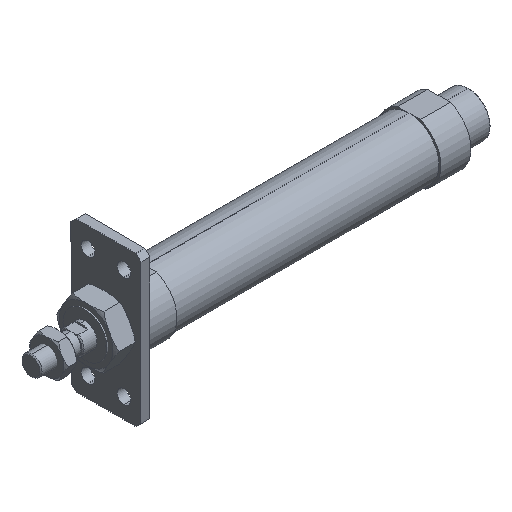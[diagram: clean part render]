
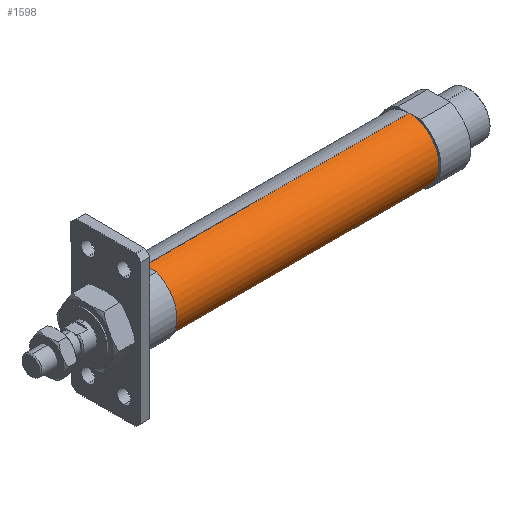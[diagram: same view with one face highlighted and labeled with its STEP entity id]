
A CAD part, isometric view. The second image highlights one B-rep face of the part: STEP entity #1598.
In plain terms, the highlighted cylindrical face has radius 15 mm (diameter 30 mm), a partial arc.
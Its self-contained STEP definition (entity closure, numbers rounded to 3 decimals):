
#240 = CARTESIAN_POINT ( 'NONE',  ( 189., 0., 0. ) ) ;
#297 = EDGE_CURVE ( 'NONE', #2950, #4090, #3286, .T. ) ;
#351 = EDGE_CURVE ( 'NONE', #3506, #2950, #3342, .T. ) ;
#627 = CARTESIAN_POINT ( 'NONE',  ( 189., 0., 15. ) ) ;
#702 = DIRECTION ( 'NONE',  ( -1., 0., 0. ) ) ;
#778 = ORIENTED_EDGE ( 'NONE', *, *, #2754, .T. ) ;
#1156 = DIRECTION ( 'NONE',  ( -1., 0., 0. ) ) ;
#1217 = DIRECTION ( 'NONE',  ( 0., 0., 1. ) ) ;
#1295 = CARTESIAN_POINT ( 'NONE',  ( -6.469, 0., -15. ) ) ;
#1296 = LINE ( 'NONE', #2934, #4032 ) ;
#1506 = CARTESIAN_POINT ( 'NONE',  ( 57., 0., -15. ) ) ;
#1598 = ADVANCED_FACE ( 'NONE', ( #3295 ), #1704, .T. ) ;
#1704 = CYLINDRICAL_SURFACE ( 'NONE', #2513, 15. ) ;
#1739 = ORIENTED_EDGE ( 'NONE', *, *, #351, .F. ) ;
#1765 = CARTESIAN_POINT ( 'NONE',  ( 189., 0., -15. ) ) ;
#1774 = AXIS2_PLACEMENT_3D ( 'NONE', #3752, #2055, #1217 ) ;
#1943 = CIRCLE ( 'NONE', #3226, 15. ) ;
#2022 = DIRECTION ( 'NONE',  ( 0., 0., 1. ) ) ;
#2055 = DIRECTION ( 'NONE',  ( -1., 0., 0. ) ) ;
#2168 = DIRECTION ( 'NONE',  ( -1., 0., 0. ) ) ;
#2199 = EDGE_CURVE ( 'NONE', #3506, #3952, #1943, .T. ) ;
#2513 = AXIS2_PLACEMENT_3D ( 'NONE', #3364, #2168, #2022 ) ;
#2754 = EDGE_CURVE ( 'NONE', #3952, #4090, #1296, .T. ) ;
#2934 = CARTESIAN_POINT ( 'NONE',  ( -6.469, 0., 15. ) ) ;
#2950 = VERTEX_POINT ( 'NONE', #1506 ) ;
#3054 = VECTOR ( 'NONE', #4118, 1000. ) ;
#3065 = CARTESIAN_POINT ( 'NONE',  ( 57., 0., 15. ) ) ;
#3226 = AXIS2_PLACEMENT_3D ( 'NONE', #240, #702, #3791 ) ;
#3286 = CIRCLE ( 'NONE', #1774, 15. ) ;
#3295 = FACE_OUTER_BOUND ( 'NONE', #3318, .T. ) ;
#3318 = EDGE_LOOP ( 'NONE', ( #1739, #3788, #778, #3922 ) ) ;
#3342 = LINE ( 'NONE', #1295, #3054 ) ;
#3364 = CARTESIAN_POINT ( 'NONE',  ( -6.469, 0., 0. ) ) ;
#3506 = VERTEX_POINT ( 'NONE', #1765 ) ;
#3752 = CARTESIAN_POINT ( 'NONE',  ( 57., 0., 0. ) ) ;
#3788 = ORIENTED_EDGE ( 'NONE', *, *, #2199, .T. ) ;
#3791 = DIRECTION ( 'NONE',  ( 0., 0., 1. ) ) ;
#3922 = ORIENTED_EDGE ( 'NONE', *, *, #297, .F. ) ;
#3952 = VERTEX_POINT ( 'NONE', #627 ) ;
#4032 = VECTOR ( 'NONE', #1156, 1000. ) ;
#4090 = VERTEX_POINT ( 'NONE', #3065 ) ;
#4118 = DIRECTION ( 'NONE',  ( -1., 0., 0. ) ) ;
